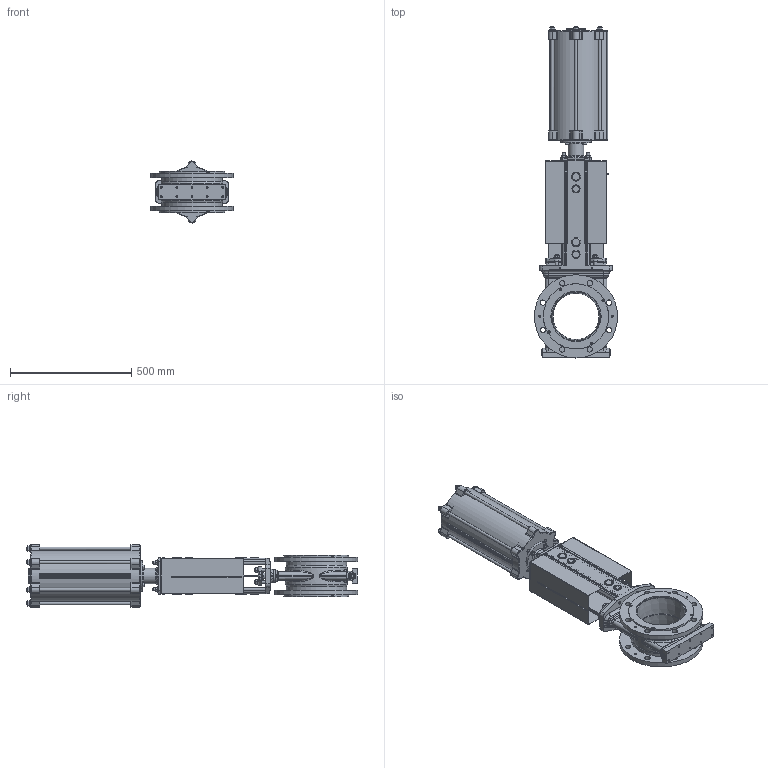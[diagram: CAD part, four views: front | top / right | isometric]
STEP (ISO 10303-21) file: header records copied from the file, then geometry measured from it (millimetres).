
FILE_DESCRIPTION(/* description */ (''),/* implementation_level */ '2;1');
FILE_NAME(/* name */ 'F:\Emir\3D-block special\SLV\SLF-DN200-PN10-FRSC200-270+LDR.stp',/* time_stamp */ '2018-10-15T12:28:31+02:00',/* author */ ('emimus'),/* organization */ (''),/* preprocessor_version */ 'ST-DEVELOPER v17.2',/* originating_system */ 'Autodesk Inventor 2019',/* authorisation */ '');
FILE_SCHEMA (('CONFIG_CONTROL_DESIGN'));
Length unit declared in the file: millimetre
Products named in the file (1): SLF-DN200-PN10-FRSC200-270+LDR
Bounding box: 343 x 1368.5 x 256 mm (x, y, z)
Volume: 15234691.5 mm3; surface area: 3059510.6 mm2
Topology: 3 solids, 3 shells, 2771 faces, 6994 edges, 4346 vertices
Faces by surface type: plane 965, cylinder 706, bspline 359, cone 319, torus 294, sphere 128
Full cylindrical faces by diameter (mm): 3 x10, 3.5 x8, 3.6 x8, 4 x2, 4.5 x8, 4.917 x11, 6 x1, 6.647 x10, 7 x4, 8.5 x8, 8.88 x1, 9.5 x2, 10 x9, 10.106 x2, 12 x38, 13 x22, 13.835 x4, 14 x4, 14.63 x4, 15 x4, 18 x2, 18.631 x2, 19 x4, 20.5 x1, 22 x16, 23 x4, 24 x19, 25.8 x2, 27 x1, 28 x4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
Entity records: 97308 total; most frequent: CARTESIAN_POINT 31850, DIRECTION 13944, ORIENTED_EDGE 13868, EDGE_CURVE 6934, AXIS2_PLACEMENT_3D 5841, VERTEX_POINT 4346, CIRCLE 3135, EDGE_LOOP 3102
